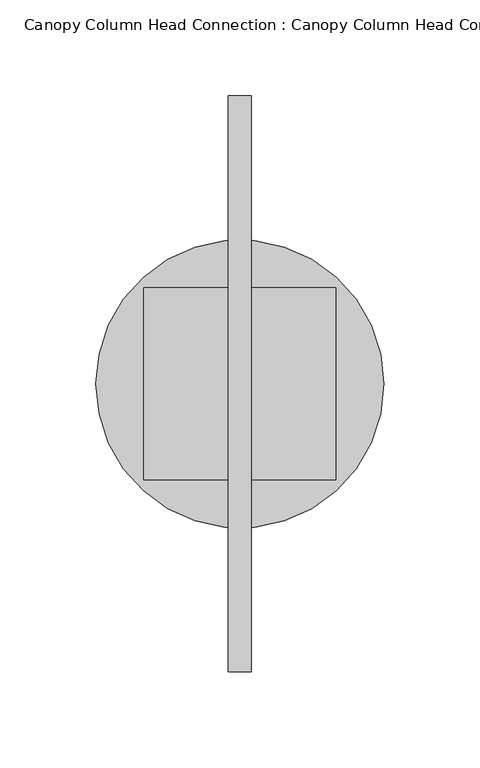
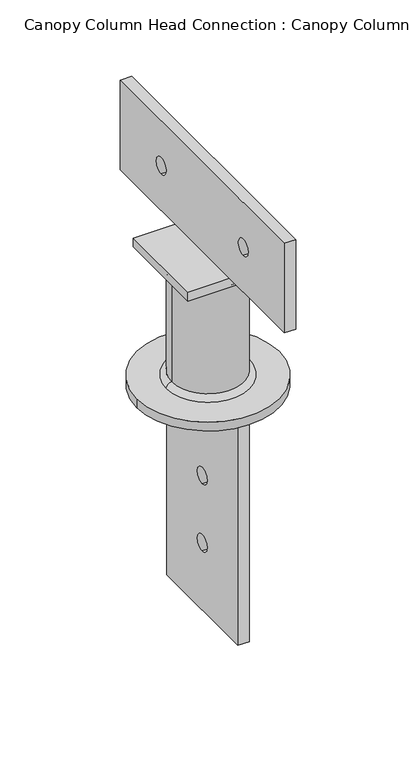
"""IFC4 building model written with IfcOpenShell, lengths in millimetres: proxy geometry, Canopy Column Head Connection : Canopy Column Head Connection."""

from ifc_helpers import new_model, si_unit, point, frame, frame_2d, origin, origin_with_axes, origin_2d, place, context, project, spatial, polyline, circle_curve, ellipse_curve, trimmed, segment, composite_curve, outline, extrude, source, transform, mapped, element, save
from ifc_brep_helpers import plane_surface, revolved_surface, advanced_brep


def canopy_column_head_connection_canopy_column_head_connection_66bd8aa7(model_context):
    return source(origin(), model_context, "Body", "SolidModel", [
        extrude(outline(composite_curve([segment(trimmed(circle_curve(origin_2d(), 38.05), [point((-38.05, 0.0))], [point((38.05, 0.0))], False, "CARTESIAN"), True, "CONTINUOUS"), segment(trimmed(circle_curve(origin_2d(), 38.05), [point((38.05, 0.0))], [point((-38.05, 0.0))], False, "CARTESIAN"), True, "CONTINUOUS")], self_intersect=False), holes=[composite_curve([segment(trimmed(circle_curve(origin_2d(), 33.05), [point((-33.05, 0.0))], [point((33.05, 0.0))], True, "CARTESIAN"), True, "CONTINUOUS"), segment(trimmed(circle_curve(origin_2d(), 33.05), [point((33.05, 0.0))], [point((-33.05, 0.0))], True, "CARTESIAN"), True, "CONTINUOUS")], self_intersect=False)]), frame((0.0, 0.0, 10.0), z_axis=(0.0, 0.0, 1.0), x_axis=(1.0, 0.0, 0.0)), (0.0, 0.0, 1.0), 130.0),
        extrude(outline(polyline([(-65.0, -250.0), (-65.0, 0.0), (65.0, 0.0), (65.0, -250.0), (-65.0, -250.0)]), holes=[composite_curve([segment(trimmed(circle_curve(frame_2d((0.0, -100.0)), 8.9998703), [point((0.0, -108.9998703))], [point((0.0, -91.0001297))], True, "CARTESIAN"), True, "CONTINUOUS"), segment(trimmed(circle_curve(frame_2d((0.0, -100.0)), 8.9998703), [point((0.0, -91.0001297))], [point((0.0, -108.9998703))], True, "CARTESIAN"), True, "CONTINUOUS")], self_intersect=False), composite_curve([segment(trimmed(circle_curve(frame_2d((0.0, -175.0)), 8.9998703), [point((0.0, -183.9998703))], [point((0.0, -166.0001297))], True, "CARTESIAN"), True, "CONTINUOUS"), segment(trimmed(circle_curve(frame_2d((0.0, -175.0)), 8.9998703), [point((0.0, -166.0001297))], [point((0.0, -183.9998703))], True, "CARTESIAN"), True, "CONTINUOUS")], self_intersect=False)]), frame((-6.0, 0.0, 0.0), z_axis=(1.0, 0.0, 0.0), x_axis=(0.0, 1.0, 0.0)), (0.0, 0.0, 1.0), 12.0),
        extrude(outline(polyline([(150.0, 150.0), (-150.0, 150.0), (-150.0, 250.0), (150.0, 250.0), (150.0, 150.0)]), holes=[composite_curve([segment(trimmed(circle_curve(frame_2d((-75.0, 200.0)), 8.9998703), [point((-75.0, 191.0001297))], [point((-75.0, 208.9998703))], True, "CARTESIAN"), True, "CONTINUOUS"), segment(trimmed(circle_curve(frame_2d((-75.0, 200.0)), 8.9998703), [point((-75.0, 208.9998703))], [point((-75.0, 191.0001297))], True, "CARTESIAN"), True, "CONTINUOUS")], self_intersect=False), composite_curve([segment(trimmed(circle_curve(frame_2d((75.0, 200.0)), 8.9998703), [point((75.0, 191.0001297))], [point((75.0, 208.9998703))], True, "CARTESIAN"), True, "CONTINUOUS"), segment(trimmed(circle_curve(frame_2d((75.0, 200.0)), 8.9998703), [point((75.0, 208.9998703))], [point((75.0, 191.0001297))], True, "CARTESIAN"), True, "CONTINUOUS")], self_intersect=False)]), frame((-6.0, 0.0, 0.0), z_axis=(1.0, 0.0, 0.0), x_axis=(0.0, 1.0, 0.0)), (0.0, 0.0, 1.0), 12.0),
        extrude(outline(composite_curve([segment(trimmed(circle_curve(origin_2d(), 75.0), [point((75.0, 0.0))], [point((-75.0, 0.0))], False, "CARTESIAN"), True, "CONTINUOUS"), segment(trimmed(circle_curve(origin_2d(), 75.0), [point((-75.0, 0.0))], [point((75.0, 0.0))], False, "CARTESIAN"), True, "CONTINUOUS")], self_intersect=False)), origin_with_axes(), (0.0, 0.0, 1.0), 10.0),
        advanced_brep(
        [(-38.05, 0.0, 140.0), (38.05, 0.0, 140.0), (38.05, 0.0, 134.0), (-38.05, 0.0, 134.0), (44.05, 0.0, 140.0), (-44.05, 0.0, 140.0)],
        [
            (0, 1, circle_curve(frame((0.0, 0.0, 140.0), z_axis=(0.0, 0.0, 1.0), x_axis=(1.0, 0.0, 0.0)), 38.05)),
            (1, 2),
            (2, 3, circle_curve(frame((0.0, 0.0, 134.0), z_axis=(0.0, 0.0, -1.0), x_axis=(1.0, 0.0, 0.0)), 38.05)),
            (3, 0),
            (1, 0, circle_curve(frame((0.0, 0.0, 140.0), z_axis=(0.0, 0.0, 1.0), x_axis=(1.0, 0.0, 0.0)), 38.05)),
            (3, 2, circle_curve(frame((0.0, 0.0, 134.0), z_axis=(0.0, 0.0, -1.0), x_axis=(1.0, 0.0, 0.0)), 38.05)),
            (2, 4, circle_curve(frame((38.05, 0.0, 140.0), z_axis=(0.0, -1.0, 0.0), x_axis=(-1.0, 0.0, 0.0)), 6.0)),
            (4, 5, circle_curve(frame((0.0, 0.0, 140.0), z_axis=(0.0, 0.0, -1.0), x_axis=(1.0, 0.0, 0.0)), 44.05)),
            (5, 3, circle_curve(frame((-38.05, 0.0, 140.0), z_axis=(0.0, -1.0, 0.0), x_axis=(1.0, 0.0, 0.0)), 6.0)),
            (5, 4, circle_curve(frame((0.0, 0.0, 140.0), z_axis=(0.0, 0.0, -1.0), x_axis=(1.0, 0.0, 0.0)), 44.05)),
            (4, 1),
            (0, 5),
        ],
        [
            revolved_surface(polyline([(38.05, 0.0, 134.0), (38.05, 0.0, 140.0)]), (0.0, 0.0, 40.0), (0.0, 0.0, -1.0)),
            revolved_surface(trimmed(ellipse_curve(frame((38.05, 0.0, 140.0), z_axis=(0.0, 1.0, 0.0), x_axis=(-1.0, 0.0, 0.0)), 6.0, 6.0), [point((44.05, 0.0, 140.0))], [point((38.05, 0.0, 134.0))], True, "CARTESIAN"), (0.0, 0.0, 40.0), (0.0, 0.0, -1.0)),
            plane_surface(frame((0.0, 0.0, 140.0), z_axis=(0.0, 0.0, 1.0), x_axis=(1.0, 0.0, 0.0))),
        ],
        [
            (0, [[1, 2, 3, 4]]),
            (0, [[5, -4, 6, -2]]),
            (1, [[-3, 7, 8, 9]]),
            (1, [[-6, -9, 10, -7]]),
            (2, [[-8, 11, -1, 12]]),
            (2, [[-10, -12, -5, -11]]),
        ],
    ),
        extrude(outline(polyline([(50.0, 50.0), (50.0, -50.0), (-50.0, -50.0), (-50.0, 50.0), (50.0, 50.0)])), frame((0.0, 0.0, 140.0), z_axis=(0.0, 0.0, 1.0), x_axis=(1.0, 0.0, 0.0)), (0.0, 0.0, 1.0), 10.0),
        advanced_brep(
        [(-38.05, 0.0, 16.0), (38.05, 0.0, 16.0), (38.05, 0.0, 10.0), (-38.05, 0.0, 10.0), (-44.05, 0.0, 10.0), (44.05, 0.0, 10.0)],
        [
            (0, 1, circle_curve(frame((0.0, 0.0, 16.0), z_axis=(0.0, 0.0, 1.0), x_axis=(1.0, 0.0, 0.0)), 38.05)),
            (1, 2),
            (2, 3, circle_curve(frame((0.0, 0.0, 10.0), z_axis=(0.0, 0.0, -1.0), x_axis=(1.0, 0.0, 0.0)), 38.05)),
            (3, 0),
            (1, 0, circle_curve(frame((0.0, 0.0, 16.0), z_axis=(0.0, 0.0, 1.0), x_axis=(1.0, 0.0, 0.0)), 38.05)),
            (3, 2, circle_curve(frame((0.0, 0.0, 10.0), z_axis=(0.0, 0.0, -1.0), x_axis=(1.0, 0.0, 0.0)), 38.05)),
            (4, 5, circle_curve(frame((0.0, 0.0, 10.0), z_axis=(0.0, 0.0, 1.0), x_axis=(1.0, 0.0, 0.0)), 44.05)),
            (5, 1, circle_curve(frame((38.05, 0.0, 10.0), z_axis=(0.0, -1.0, 0.0), x_axis=(-1.0, 0.0, 0.0)), 6.0)),
            (0, 4, circle_curve(frame((-38.05, 0.0, 10.0), z_axis=(0.0, -1.0, 0.0), x_axis=(1.0, 0.0, 0.0)), 6.0)),
            (5, 4, circle_curve(frame((0.0, 0.0, 10.0), z_axis=(0.0, 0.0, 1.0), x_axis=(1.0, 0.0, 0.0)), 44.05)),
            (2, 5),
            (4, 3),
        ],
        [
            revolved_surface(polyline([(38.05, 0.0, 10.0), (38.05, 0.0, 16.0)]), (0.0, 0.0, 140.0), (0.0, 0.0, -1.0)),
            revolved_surface(trimmed(ellipse_curve(frame((38.05, 0.0, 10.0), z_axis=(0.0, 1.0, 0.0), x_axis=(-1.0, 0.0, 0.0)), 6.0, 6.0), [point((38.05, 0.0, 16.0))], [point((44.05, 0.0, 10.0))], True, "CARTESIAN"), (0.0, 0.0, 140.0), (0.0, 0.0, -1.0)),
            plane_surface(frame((0.0, 0.0, 10.0), z_axis=(0.0, 0.0, -1.0), x_axis=(1.0, 0.0, 0.0))),
        ],
        [
            (0, [[1, 2, 3, 4]]),
            (0, [[5, -4, 6, -2]]),
            (1, [[7, 8, -1, 9]]),
            (1, [[10, -9, -5, -8]]),
            (2, [[-3, 11, -7, 12]]),
            (2, [[-6, -12, -10, -11]]),
        ],
    ),
    ])


if __name__ == "__main__":
    model = new_model("IFC4")
    model_context = context("Model", 3, world=origin())
    ifc_project = project(units=[si_unit("LENGTHUNIT", "METRE", prefix="MILLI")], contexts=[model_context])
    site = spatial("IfcSite", under=ifc_project)
    building = spatial("IfcBuilding", under=site)
    placement = place(None, origin())
    canopy_column_head_connection_canopy_column_head_connection_shape = canopy_column_head_connection_canopy_column_head_connection_66bd8aa7(model_context)
    element("IfcBuildingElementProxy", 1, Name="Canopy Column Head Connection : Canopy Column Head Connection", ObjectType="Canopy Column Head Connection : Canopy Column Head Connection", at=placement, inside=building, context=model_context, shape_type="MappedRepresentation", body=[
        mapped(canopy_column_head_connection_canopy_column_head_connection_shape, transform((0.0, 0.0, 0.0), x_axis=(1.0, 0.0, 0.0), y_axis=(0.0, 1.0, 0.0), z_axis=(0.0, 0.0, 1.0))),
    ])
    save(model, "model.ifc")
